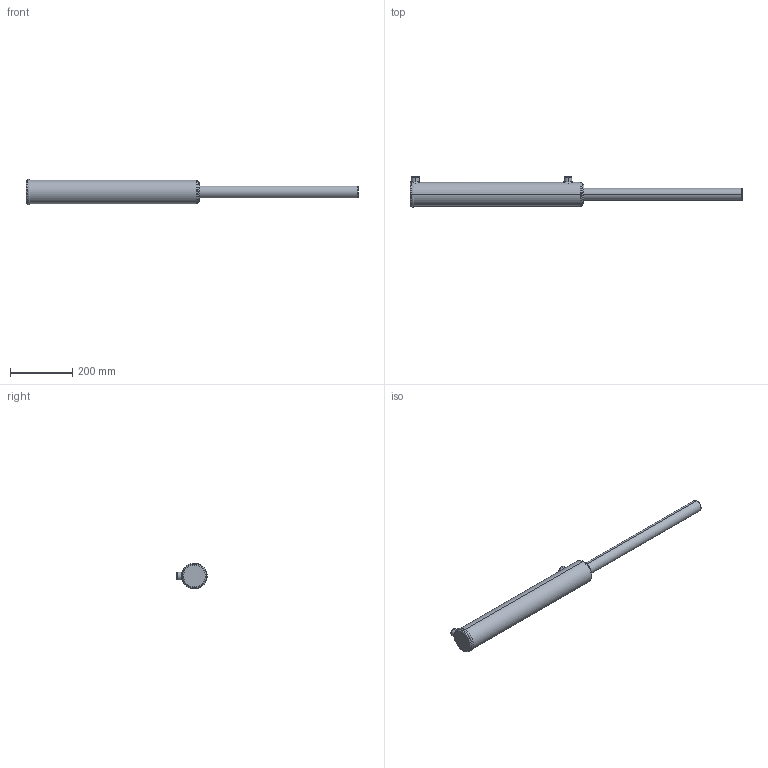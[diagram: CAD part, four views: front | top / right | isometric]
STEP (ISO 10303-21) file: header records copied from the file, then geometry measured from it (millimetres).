
FILE_DESCRIPTION (( 'STEP AP203' ), '1' );
FILE_NAME ('BL250150x457 (18) extended.STEP', '2014-11-25T01:44:33', ( '' ), ( '' ), 'SwSTEP 2.0', 'SolidWorks 2014', '' );
FILE_SCHEMA (( 'CONFIG_CONTROL_DESIGN' ));
Length unit declared in the file: millimetre
Products named in the file (3): BL body 2.5_2.5x18; Spare_2.5x18; BL250150x457 (18) extended
Assembly tree (2 placements, depth 2):
  BL250150x457 (18) extended
    BL body 2.5_2.5x18
    Spare_2.5x18
Bounding box: 1065 x 97.2 x 82.2 mm (x, y, z)
Volume: 2892784.2 mm3; surface area: 246505.2 mm2
Topology: 2 solids, 2 shells, 88 faces, 205 edges, 126 vertices
Faces by surface type: cylinder 32, plane 20, torus 18, bspline 10, cone 8
Entity records: 5772 total; most frequent: CARTESIAN_POINT 3521, DIRECTION 422, ORIENTED_EDGE 402, EDGE_CURVE 201, AXIS2_PLACEMENT_3D 182, VERTEX_POINT 126, EDGE_LOOP 101, CIRCLE 99
